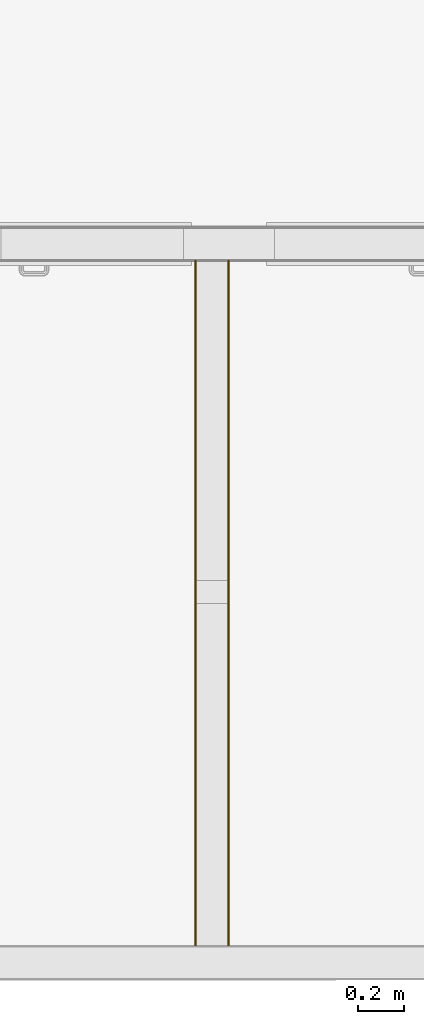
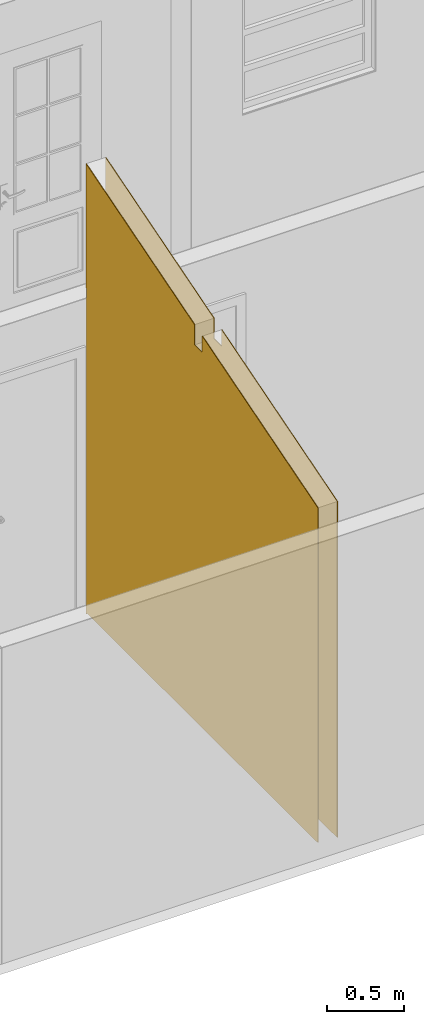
# One storey, part 6 of 8: 2 coverings, 1 element without a shape of its own.
"""IFC2X3 building model written with IfcOpenShell, lengths in millimetres."""

import ifcopenshell
import ifcopenshell.guid

model = None  # the IFC model being written
_history = None  # IfcOwnerHistory: only IFC2X3 demands one
_inside = {}  # id of a spatial element -> (the spatial element, [elements in it])
_under = {}  # id of a project, library or spatial element -> (it, [spatial elements below it])
_declared = {}  # id of a project -> (the project, [libraries it declares])
_typed = {}  # id of a type object -> (the type object, [elements of that type])
_made_of = {}  # id of a material, layer set ... -> (it, [elements and type objects made of it])


def new_model(schema):
    """Start an empty IFC model of exactly this schema.

    Asked for "IFC4X3", IfcOpenShell would pick the latest addendum, in which some entities
    have other attributes; the version numbers below select the first issue.
    IFC2X3 requires an IfcOwnerHistory on every rooted entity: one is made here for all.
    """
    global model, _history
    if schema == "IFC4X3":
        model = ifcopenshell.file(schema_version=(4, 3, 0, 0))
    else:
        model = ifcopenshell.file(schema=schema)
    _inside.clear()
    _under.clear()
    _declared.clear()
    _typed.clear()
    _made_of.clear()
    _history = None
    if model.schema == "IFC2X3":
        org = make("IfcOrganization", Name="unknown")
        user = make(
            "IfcPersonAndOrganization",
            ThePerson=make("IfcPerson", FamilyName="unknown"),
            TheOrganization=org,
        )
        app = make(
            "IfcApplication",
            ApplicationDeveloper=org,
            Version="unknown",
            ApplicationFullName="unknown",
            ApplicationIdentifier="unknown",
        )
        _history = make(
            "IfcOwnerHistory",
            OwningUser=user,
            OwningApplication=app,
            ChangeAction="ADDED",
            CreationDate=0,
        )
    return model


def make(cls, **values):
    """One entity of the class cls with the attributes given. An attribute that is None is left unset."""
    return model.create_entity(
        cls, **{name: value for name, value in values.items() if value is not None}
    )


def entity(cls, *values):
    """Any entity or typed value of the class cls, its attributes in the order of the schema. None: left unset."""
    e = model.create_entity(cls)
    for i, value in enumerate(values):
        if value is not None:
            e[i] = value
    return e


def rooted(cls, **values):
    """An entity with a GlobalId (a new one), such as an element, a storey or a relation."""
    return make(cls, GlobalId=ifcopenshell.guid.new(), OwnerHistory=_history, **values)


def si_unit(unit_type, name, prefix=None):
    """IfcSIUnit, for example si_unit("LENGTHUNIT", "METRE", prefix="MILLI")."""
    return make("IfcSIUnit", UnitType=unit_type, Prefix=prefix, Name=name)


def converted_unit(unit_type, name, factor, base, dimensions=None, offset=None):
    """IfcConversionBasedUnit, such as the inch: factor (a typed value) times the base unit."""
    return make(
        "IfcConversionBasedUnit"
        if offset is None
        else "IfcConversionBasedUnitWithOffset",
        ConversionOffset=offset,
        Dimensions=None
        if dimensions is None
        else entity("IfcDimensionalExponents", *dimensions),
        UnitType=unit_type,
        Name=name,
        ConversionFactor=make(
            "IfcMeasureWithUnit", ValueComponent=factor, UnitComponent=base
        ),
    )


def derived_unit(unit_type, elements):
    """IfcDerivedUnit: a product of units, each with its exponent."""
    return make(
        "IfcDerivedUnit",
        Elements=[
            make("IfcDerivedUnitElement", Unit=unit, Exponent=power)
            for unit, power in elements
        ],
        UnitType=unit_type,
    )


def money_unit(currency):
    """IfcMonetaryUnit."""
    return make("IfcMonetaryUnit", Currency=currency)


def assignment(units):
    """IfcUnitAssignment: the units of a project."""
    return None if units is None else make("IfcUnitAssignment", Units=units)


def point(xyz):
    """IfcCartesianPoint."""
    return None if xyz is None else make("IfcCartesianPoint", Coordinates=xyz)


def direction(xyz):
    """IfcDirection."""
    return None if xyz is None else make("IfcDirection", DirectionRatios=xyz)


def frame(location, z_axis=None, x_axis=None):
    """IfcAxis2Placement3D, a coordinate frame: its origin and axes. An axis left out is left unset."""
    return make(
        "IfcAxis2Placement3D",
        Location=point(location),
        Axis=direction(z_axis),
        RefDirection=direction(x_axis),
    )


def origin_with_axes():
    """The frame at (0, 0, 0) with the z axis (0, 0, 1) and the x axis (1, 0, 0) written out."""
    return frame((0.0, 0.0, 0.0), z_axis=(0.0, 0.0, 1.0), x_axis=(1.0, 0.0, 0.0))


def place(relative_to, where):
    """IfcLocalPlacement: puts the frame where relative to a parent placement (None: the world)."""
    return make(
        "IfcLocalPlacement", PlacementRelTo=relative_to, RelativePlacement=where
    )


def context(
    kind, dimensions, precision=None, world=None, true_north=None, identifier=None
):
    """IfcGeometricRepresentationContext, for example the 3D "Model" context."""
    return make(
        "IfcGeometricRepresentationContext",
        ContextIdentifier=identifier,
        ContextType=kind,
        CoordinateSpaceDimension=dimensions,
        Precision=precision,
        WorldCoordinateSystem=world,
        TrueNorth=true_north,
    )


def subcontext(parent, identifier, kind, view, scale=None):
    """IfcGeometricRepresentationSubContext, for example "Body" below "Model"."""
    return make(
        "IfcGeometricRepresentationSubContext",
        ContextIdentifier=identifier,
        ContextType=kind,
        ParentContext=parent,
        TargetScale=scale,
        TargetView=view,
    )


def project(units=None, contexts=None):
    """IfcProject with its units and contexts."""
    return rooted(
        "IfcProject",
        Name="project",
        RepresentationContexts=contexts,
        UnitsInContext=assignment(units),
    )


def spatial(cls, under=None, at=None, **own):
    """A site, building, storey or space (cls), placed at a placement, below another one or the project."""
    s = rooted(cls, ObjectPlacement=at, **own)
    if under is not None:
        _under.setdefault(under.id(), (under, []))[1].append(s)
    return s


def polyline(points):
    """IfcPolyline through the points."""
    return make("IfcPolyline", Points=[point(p) for p in points])


def outline(outer, holes=None, kind="AREA"):
    """IfcArbitraryClosedProfileDef: a profile drawn as a closed curve; with holes, ...WithVoids."""
    if holes is None:
        return make("IfcArbitraryClosedProfileDef", ProfileType=kind, OuterCurve=outer)
    return make(
        "IfcArbitraryProfileDefWithVoids",
        ProfileType=kind,
        OuterCurve=outer,
        InnerCurves=holes,
    )


def extrude(swept, where, along, depth):
    """IfcExtrudedAreaSolid: the profile swept, set in the frame where, extruded along a direction by depth."""
    return make(
        "IfcExtrudedAreaSolid",
        SweptArea=swept,
        Position=where,
        ExtrudedDirection=direction(along),
        Depth=depth,
    )


def boolean(op, a, b):
    """IfcBooleanResult of two solids."""
    return make("IfcBooleanResult", Operator=op, FirstOperand=a, SecondOperand=b)


def faces_of(points, faces, orient=None, outer=None):
    """IfcFace entities. A face is a list of loops; a loop is a list of indices into points, from 0.

    orient and outer hold one flag for each loop. By default every Orientation is true, the
    first loop of a face is its IfcFaceOuterBound and the others are IfcFaceBound.
    """
    made = []
    for i, loops in enumerate(faces):
        bounds = []
        for j, loop in enumerate(loops):
            is_outer = j == 0 if outer is None else outer[i][j]
            bounds.append(
                make(
                    "IfcFaceOuterBound" if is_outer else "IfcFaceBound",
                    Bound=make("IfcPolyLoop", Polygon=[points[k] for k in loop]),
                    Orientation=True if orient is None else orient[i][j],
                )
            )
        made.append(make("IfcFace", Bounds=bounds))
    return made


def faceted_brep(points, faces, orient=None, outer=None, voids=None):
    """IfcFacetedBrep: a solid bounded by flat faces; with voids (closed shells), ...WithVoids."""
    shared = [point(p) for p in points]
    hull = make("IfcClosedShell", CfsFaces=faces_of(shared, faces, orient, outer))
    if voids is None:
        return make("IfcFacetedBrep", Outer=hull)
    return make(
        "IfcFacetedBrepWithVoids",
        Outer=hull,
        Voids=[
            make(cls, CfsFaces=faces_of(shared, fs, o, b)) for cls, fs, o, b in voids
        ],
    )


def shape(context_of_items, identifier, shape_type, items):
    """IfcShapeRepresentation: the items that make up one representation, for example the "Body"."""
    return make(
        "IfcShapeRepresentation",
        ContextOfItems=context_of_items,
        RepresentationIdentifier=identifier,
        RepresentationType=shape_type,
        Items=items,
    )


def material(Name=None, Category=None):
    """IfcMaterial."""
    return make("IfcMaterial", Name=Name, Category=Category)


def made_of(thing, what):
    """Note that an element or type object is made of a material, layer set ...; save() writes the relation."""
    if what is not None:
        _made_of.setdefault(what.id(), (what, []))[1].append(thing)
    return thing


def type_object(cls, material=None, **own):
    """A type object (cls), such as IfcWallType, which elements share."""
    return made_of(rooted(cls, **own), material)


def element(
    cls,
    number,
    at=None,
    inside=None,
    cuts=None,
    type_object=None,
    material=None,
    context=None,
    identifier="Body",
    shape_type=None,
    held_by="IfcProductDefinitionShape",
    body=None,
    shapes=None,
    **own,
):
    """One element of the class cls, such as IfcWall. Its Tag is "e" and its number.

    at: its placement. inside: the storey or other place that contains it. cuts: it is an
    opening in that element (IfcRelVoidsElement). A single representation is given by context,
    identifier, shape_type and body (its items); several are given by shapes. held_by: the class
    of the entity that holds the representations. save() writes the other relations.
    """
    e = rooted(cls, Tag="e%d" % number, ObjectPlacement=at, **own)
    if body is not None:
        shapes = [shape(context, identifier, shape_type, body)]
    if shapes is not None:
        e.Representation = make(held_by, Representations=shapes)
    if inside is not None:
        _inside.setdefault(inside.id(), (inside, []))[1].append(e)
    if cuts is not None:
        rooted(
            "IfcRelVoidsElement", RelatingBuildingElement=cuts, RelatedOpeningElement=e
        )
    if type_object is not None:
        _typed.setdefault(type_object.id(), (type_object, []))[1].append(e)
    return made_of(e, material)


def aggregate(whole, parts):
    """IfcRelAggregates: a whole, such as a stair, and the parts it consists of."""
    return rooted("IfcRelAggregates", RelatingObject=whole, RelatedObjects=parts)


def save(model, path):
    """Write the relations noted so far, then the file.

    IfcRelAggregates (storeys below a building ...), IfcRelContainedInSpatialStructure (elements
    in a storey), IfcRelDefinesByType, IfcRelAssociatesMaterial and IfcRelDeclares: one each for
    every whole, place, type object, material and project.
    """
    for whole, parts in _under.values():
        aggregate(whole, parts)
    for where, things in _inside.values():
        rooted(
            "IfcRelContainedInSpatialStructure",
            RelatedElements=things,
            RelatingStructure=where,
        )
    for kind, things in _typed.values():
        rooted("IfcRelDefinesByType", RelatedObjects=things, RelatingType=kind)
    for what, things in _made_of.values():
        rooted("IfcRelAssociatesMaterial", RelatedObjects=things, RelatingMaterial=what)
    for by, libraries in _declared.values():
        rooted("IfcRelDeclares", RelatingContext=by, RelatedDefinitions=libraries)
    model.write(path)


model = new_model("IFC2X3")

# Units and contexts
model_context = context("Model", 3, precision=0.01, world=origin_with_axes(), true_north=direction((0.0, 1.0)))
body_context = subcontext(model_context, "Body", "Model", "MODEL_VIEW")
ifc_project = project(units=[si_unit("LENGTHUNIT", "METRE", prefix="MILLI"), si_unit("AREAUNIT", "SQUARE_METRE"), si_unit("VOLUMEUNIT", "CUBIC_METRE"), converted_unit("PLANEANGLEUNIT", "DEGREE", entity("IfcPlaneAngleMeasure", 0.0174532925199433), si_unit("PLANEANGLEUNIT", "RADIAN"), dimensions=[0, 0, 0, 0, 0, 0, 0]), money_unit("USD"), converted_unit("TIMEUNIT", "Year", entity("IfcTimeMeasure", 31557600.0), si_unit("TIMEUNIT", "SECOND"), dimensions=[0, 0, 1, 0, 0, 0, 0]), si_unit("MASSUNIT", "GRAM", prefix="KILO"), si_unit("THERMODYNAMICTEMPERATUREUNIT", "DEGREE_CELSIUS"), si_unit("LUMINOUSINTENSITYUNIT", "LUMEN"), si_unit("ENERGYUNIT", "JOULE", prefix="MEGA"), derived_unit("THERMALCONDUCTANCEUNIT", [(si_unit("POWERUNIT", "WATT"), 1), (si_unit("LENGTHUNIT", "METRE"), -1), (si_unit("THERMODYNAMICTEMPERATUREUNIT", "KELVIN"), -1)]), derived_unit("SPECIFICHEATCAPACITYUNIT", [(si_unit("ENERGYUNIT", "JOULE"), 1), (si_unit("MASSUNIT", "GRAM", prefix="KILO"), -1), (si_unit("THERMODYNAMICTEMPERATUREUNIT", "KELVIN"), -1)]), derived_unit("MASSDENSITYUNIT", [(si_unit("MASSUNIT", "GRAM", prefix="KILO"), 1), (si_unit("VOLUMEUNIT", "CUBIC_METRE"), -1)])], contexts=[model_context])

# Site, building, storey
site_placement = place(None, origin_with_axes())
site = spatial("IfcSite", under=ifc_project, at=site_placement, Name="Local", CompositionType="ELEMENT")
building_placement = place(site_placement, origin_with_axes())
building = spatial("IfcBuilding", under=site, at=building_placement, Name="Construção", CompositionType="ELEMENT")
storey_placement = place(building_placement, origin_with_axes())
storey = spatial("IfcBuildingStorey", under=building, at=storey_placement, Name="Pavimento Térreo", CompositionType="ELEMENT", Elevation=0.0)

# Wall, coverings
wall_type = type_object("IfcWallType", Name="Alvenaria 140, Rebocada 2 Faces 150", PredefinedType="NOTDEFINED")
wall_placement = place(storey_placement, frame((2750.0, 150.0000000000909, 0.0), z_axis=(0.0, 0.0, 1.0), x_axis=(0.0, 1.0, 0.0)))
wall = element("IfcWall", 1, at=wall_placement, inside=storey, type_object=wall_type, Name="Parede-06")
ifc_material = material(Name="Reboco DEF")
covering_1_placement = place(wall_placement, origin_with_axes())
covering_1 = element("IfcCovering", 2, at=covering_1_placement, material=ifc_material, Name="Reboco DEF", PredefinedType="CLADDING", context=body_context, shape_type="CSG", body=[
    boolean("DIFFERENCE", boolean("DIFFERENCE", boolean("DIFFERENCE", boolean("DIFFERENCE", boolean("DIFFERENCE", boolean("DIFFERENCE", boolean("DIFFERENCE", extrude(outline(polyline([(0.0, 0.0), (3005.000000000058, 0.0), (3005.000000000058, 4.999999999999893), (0.0, 4.999999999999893), (0.0, 0.0)])), origin_with_axes(), (0.0, 0.0, 1.0), 5897.788795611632), faceted_brep([(3005.000000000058, 0.0, 2500.0), (3005.000000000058, 4.999999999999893, 2500.0), (3005.000000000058, 4.999999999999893, 2580.0), (3005.000000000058, 0.0, 2580.0), (2999.999999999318, 0.0, 2500.0), (2999.999999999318, 4.999999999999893, 2500.0), (2999.999999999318, 4.999999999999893, 2580.0), (2999.999999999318, 0.0, 2580.0)], [[[0, 1, 2, 3]], [[1, 0, 4, 5]], [[6, 2, 1, 5]], [[7, 3, 2, 6]], [[4, 0, 3, 7]], [[4, 7, 6, 5]]])), faceted_brep([(1600.000000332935, 0.0, 2980.451740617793), (1600.000000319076, 0.0, 3140.451740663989), (3005.000000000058, 0.0, 3561.951740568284), (3005.000000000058, 0.0, 5897.788795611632), (0.0, 0.0, 5897.788795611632), (0.0, 0.0, 2660.451740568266), (1500.000000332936, 0.0, 3110.451740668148), (1500.000000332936, 0.0, 2980.451740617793), (1600.000000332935, 4.999999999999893, 2980.451740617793), (1600.000000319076, 4.999999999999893, 3140.451740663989), (3005.000000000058, 4.999999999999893, 3561.951740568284), (3005.000000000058, 4.999999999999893, 5897.788795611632), (0.0, 4.999999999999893, 5897.788795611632), (0.0, 4.999999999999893, 2660.451740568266), (1500.000000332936, 4.999999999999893, 3110.451740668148), (1500.000000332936, 4.999999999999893, 2980.451740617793)], [[[0, 1, 2, 3, 4, 5, 6, 7]], [[1, 0, 8, 9]], [[10, 2, 1, 9]], [[2, 10, 11, 3]], [[12, 4, 3, 11]], [[13, 5, 4, 12]], [[6, 5, 13, 14]], [[7, 6, 14, 15]], [[0, 7, 15, 8]], [[14, 13, 12, 11, 10, 9, 8, 15]]])), faceted_brep([(3005.000000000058, 4.999999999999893, 2500.0), (3005.000000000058, 145.0000000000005, 2500.0), (3005.000000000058, 145.0000000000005, 2580.0), (3005.000000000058, 4.999999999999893, 2580.0), (2999.999999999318, 4.999999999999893, 2500.0), (2999.999999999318, 145.0000000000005, 2500.0), (2999.999999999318, 145.0000000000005, 2580.0), (2999.999999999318, 4.999999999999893, 2580.0)], [[[0, 1, 2, 3]], [[1, 0, 4, 5]], [[6, 2, 1, 5]], [[3, 2, 6, 7]], [[4, 0, 3, 7]], [[6, 5, 4, 7]]])), faceted_brep([(1600.000000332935, 4.999999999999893, 2980.451740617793), (1600.000000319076, 4.999999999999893, 3140.451740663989), (3005.000000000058, 4.999999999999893, 3561.951740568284), (3005.000000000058, 4.999999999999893, 5897.788795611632), (0.0, 4.999999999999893, 5897.788795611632), (0.0, 4.999999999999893, 2660.451740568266), (1500.000000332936, 4.999999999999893, 3110.451740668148), (1500.000000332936, 4.999999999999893, 2980.451740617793), (1600.000000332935, 145.0000000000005, 2980.451740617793), (1600.000000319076, 145.0000000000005, 3140.451740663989), (3005.000000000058, 145.0000000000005, 3561.951740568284), (3005.000000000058, 145.0, 5897.788795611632), (0.0, 145.0, 5897.788795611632), (0.0, 145.0000000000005, 2660.451740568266), (1500.000000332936, 145.0000000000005, 3110.451740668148), (1500.000000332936, 145.0000000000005, 2980.451740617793)], [[[0, 1, 2, 3, 4, 5, 6, 7]], [[1, 0, 8, 9]], [[10, 2, 1, 9]], [[2, 10, 11, 3]], [[12, 4, 3, 11]], [[13, 5, 4, 12]], [[6, 5, 13, 14]], [[14, 15, 7, 6]], [[15, 8, 0, 7]], [[14, 13, 12, 11, 10, 9, 8, 15]]])), faceted_brep([(3000.000011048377, 145.0000000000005, 9.999999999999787), (0.0, 145.0, 9.999999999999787), (0.0, 145.0, 0.0), (3000.000011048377, 145.0, 0.0), (3000.000011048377, 149.9999999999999, 9.999999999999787), (0.0, 149.9999999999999, 9.999999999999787), (0.0, 149.9999999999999, 0.0), (3000.000011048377, 149.9999999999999, 0.0)], [[[0, 1, 2, 3]], [[1, 0, 4, 5]], [[1, 5, 6, 2]], [[7, 3, 2, 6]], [[0, 3, 7, 4]], [[4, 7, 6, 5]]])), faceted_brep([(3005.000000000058, 145.0000000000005, 2500.0), (3005.000000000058, 150.0000000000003, 2500.0), (3005.000000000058, 150.0000000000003, 2580.0), (3005.000000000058, 145.0000000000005, 2580.0), (2999.999999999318, 145.0000000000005, 2500.0), (2999.999999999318, 150.0000000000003, 2500.0), (2999.999999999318, 150.0000000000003, 2580.0), (2999.999999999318, 145.0000000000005, 2580.0)], [[[0, 1, 2, 3]], [[1, 0, 4, 5]], [[6, 2, 1, 5]], [[3, 2, 6, 7]], [[4, 0, 3, 7]], [[6, 5, 4, 7]]])), faceted_brep([(1600.000000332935, 145.0000000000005, 2980.451740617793), (1600.000000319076, 145.0000000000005, 3140.451740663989), (3005.000000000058, 145.0000000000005, 3561.951740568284), (3005.000000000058, 145.0, 5897.788795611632), (0.0, 145.0, 5897.788795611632), (0.0, 145.0000000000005, 2660.451740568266), (1500.000000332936, 145.0000000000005, 3110.451740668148), (1500.000000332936, 145.0000000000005, 2980.451740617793), (1600.000000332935, 150.0000000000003, 2980.451740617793), (1600.000000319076, 150.0000000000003, 3140.451740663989), (3005.000000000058, 150.0000000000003, 3561.951740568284), (3005.000000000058, 149.9999999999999, 5897.788795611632), (0.0, 149.9999999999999, 5897.788795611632), (0.0, 150.0000000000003, 2660.451740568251), (1500.000000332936, 150.0000000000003, 3110.451740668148), (1500.000000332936, 150.0000000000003, 2980.451740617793)], [[[0, 1, 2, 3, 4, 5, 6, 7]], [[8, 9, 1, 0]], [[10, 2, 1, 9]], [[2, 10, 11, 3]], [[12, 4, 3, 11]], [[13, 5, 4, 12]], [[6, 5, 13, 14]], [[14, 15, 7, 6]], [[15, 8, 0, 7]], [[14, 13, 12, 11, 10, 9, 8, 15]]])),
])
covering_2_placement = place(wall_placement, origin_with_axes())
covering_2 = element("IfcCovering", 3, at=covering_2_placement, material=ifc_material, Name="Reboco DEF", PredefinedType="CLADDING", context=body_context, shape_type="CSG", body=[
    boolean("DIFFERENCE", boolean("DIFFERENCE", boolean("DIFFERENCE", boolean("DIFFERENCE", boolean("DIFFERENCE", boolean("DIFFERENCE", boolean("DIFFERENCE", extrude(outline(polyline([(0.0, 145.0), (3005.000000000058, 145.0), (3005.000000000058, 149.9999999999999), (0.0, 149.9999999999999), (0.0, 145.0)])), origin_with_axes(), (0.0, 0.0, 1.0), 5897.788795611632), faceted_brep([(3005.000000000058, 0.0, 2500.0), (3005.000000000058, 4.999999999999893, 2500.0), (3005.000000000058, 4.999999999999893, 2580.0), (3005.000000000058, 0.0, 2580.0), (2999.999999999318, 0.0, 2500.0), (2999.999999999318, 4.999999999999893, 2500.0), (2999.999999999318, 4.999999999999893, 2580.0), (2999.999999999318, 0.0, 2580.0)], [[[0, 1, 2, 3]], [[1, 0, 4, 5]], [[6, 2, 1, 5]], [[7, 3, 2, 6]], [[4, 0, 3, 7]], [[4, 7, 6, 5]]])), faceted_brep([(1600.000000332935, 0.0, 2980.451740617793), (1600.000000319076, 0.0, 3140.451740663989), (3005.000000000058, 0.0, 3561.951740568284), (3005.000000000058, 0.0, 5897.788795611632), (0.0, 0.0, 5897.788795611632), (0.0, 0.0, 2660.451740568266), (1500.000000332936, 0.0, 3110.451740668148), (1500.000000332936, 0.0, 2980.451740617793), (1600.000000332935, 4.999999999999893, 2980.451740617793), (1600.000000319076, 4.999999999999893, 3140.451740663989), (3005.000000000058, 4.999999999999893, 3561.951740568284), (3005.000000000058, 4.999999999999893, 5897.788795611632), (0.0, 4.999999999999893, 5897.788795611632), (0.0, 4.999999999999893, 2660.451740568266), (1500.000000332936, 4.999999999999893, 3110.451740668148), (1500.000000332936, 4.999999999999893, 2980.451740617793)], [[[0, 1, 2, 3, 4, 5, 6, 7]], [[1, 0, 8, 9]], [[10, 2, 1, 9]], [[2, 10, 11, 3]], [[12, 4, 3, 11]], [[13, 5, 4, 12]], [[6, 5, 13, 14]], [[7, 6, 14, 15]], [[0, 7, 15, 8]], [[14, 13, 12, 11, 10, 9, 8, 15]]])), faceted_brep([(3005.000000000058, 4.999999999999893, 2500.0), (3005.000000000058, 145.0000000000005, 2500.0), (3005.000000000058, 145.0000000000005, 2580.0), (3005.000000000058, 4.999999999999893, 2580.0), (2999.999999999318, 4.999999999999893, 2500.0), (2999.999999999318, 145.0000000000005, 2500.0), (2999.999999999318, 145.0000000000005, 2580.0), (2999.999999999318, 4.999999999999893, 2580.0)], [[[0, 1, 2, 3]], [[1, 0, 4, 5]], [[6, 2, 1, 5]], [[3, 2, 6, 7]], [[4, 0, 3, 7]], [[6, 5, 4, 7]]])), faceted_brep([(1600.000000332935, 4.999999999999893, 2980.451740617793), (1600.000000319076, 4.999999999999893, 3140.451740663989), (3005.000000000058, 4.999999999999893, 3561.951740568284), (3005.000000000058, 4.999999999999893, 5897.788795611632), (0.0, 4.999999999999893, 5897.788795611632), (0.0, 4.999999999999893, 2660.451740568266), (1500.000000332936, 4.999999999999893, 3110.451740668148), (1500.000000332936, 4.999999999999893, 2980.451740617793), (1600.000000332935, 145.0000000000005, 2980.451740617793), (1600.000000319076, 145.0000000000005, 3140.451740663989), (3005.000000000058, 145.0000000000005, 3561.951740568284), (3005.000000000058, 145.0, 5897.788795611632), (0.0, 145.0, 5897.788795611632), (0.0, 145.0000000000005, 2660.451740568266), (1500.000000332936, 145.0000000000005, 3110.451740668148), (1500.000000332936, 145.0000000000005, 2980.451740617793)], [[[0, 1, 2, 3, 4, 5, 6, 7]], [[1, 0, 8, 9]], [[10, 2, 1, 9]], [[2, 10, 11, 3]], [[12, 4, 3, 11]], [[13, 5, 4, 12]], [[6, 5, 13, 14]], [[14, 15, 7, 6]], [[15, 8, 0, 7]], [[14, 13, 12, 11, 10, 9, 8, 15]]])), faceted_brep([(3000.000011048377, 145.0000000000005, 9.999999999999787), (0.0, 145.0, 9.999999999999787), (0.0, 145.0, 0.0), (3000.000011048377, 145.0, 0.0), (3000.000011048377, 149.9999999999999, 9.999999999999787), (0.0, 149.9999999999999, 9.999999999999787), (0.0, 149.9999999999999, 0.0), (3000.000011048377, 149.9999999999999, 0.0)], [[[0, 1, 2, 3]], [[1, 0, 4, 5]], [[1, 5, 6, 2]], [[7, 3, 2, 6]], [[0, 3, 7, 4]], [[4, 7, 6, 5]]])), faceted_brep([(3005.000000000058, 145.0000000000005, 2500.0), (3005.000000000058, 150.0000000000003, 2500.0), (3005.000000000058, 150.0000000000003, 2580.0), (3005.000000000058, 145.0000000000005, 2580.0), (2999.999999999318, 145.0000000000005, 2500.0), (2999.999999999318, 150.0000000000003, 2500.0), (2999.999999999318, 150.0000000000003, 2580.0), (2999.999999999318, 145.0000000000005, 2580.0)], [[[0, 1, 2, 3]], [[1, 0, 4, 5]], [[6, 2, 1, 5]], [[3, 2, 6, 7]], [[4, 0, 3, 7]], [[6, 5, 4, 7]]])), faceted_brep([(1600.000000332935, 145.0000000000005, 2980.451740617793), (1600.000000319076, 145.0000000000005, 3140.451740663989), (3005.000000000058, 145.0000000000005, 3561.951740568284), (3005.000000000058, 145.0, 5897.788795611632), (0.0, 145.0, 5897.788795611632), (0.0, 145.0000000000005, 2660.451740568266), (1500.000000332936, 145.0000000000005, 3110.451740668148), (1500.000000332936, 145.0000000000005, 2980.451740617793), (1600.000000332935, 150.0000000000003, 2980.451740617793), (1600.000000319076, 150.0000000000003, 3140.451740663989), (3005.000000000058, 150.0000000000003, 3561.951740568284), (3005.000000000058, 149.9999999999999, 5897.788795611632), (0.0, 149.9999999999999, 5897.788795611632), (0.0, 150.0000000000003, 2660.451740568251), (1500.000000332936, 150.0000000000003, 3110.451740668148), (1500.000000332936, 150.0000000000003, 2980.451740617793)], [[[0, 1, 2, 3, 4, 5, 6, 7]], [[8, 9, 1, 0]], [[10, 2, 1, 9]], [[2, 10, 11, 3]], [[12, 4, 3, 11]], [[13, 5, 4, 12]], [[6, 5, 13, 14]], [[14, 15, 7, 6]], [[15, 8, 0, 7]], [[14, 13, 12, 11, 10, 9, 8, 15]]])),
])
aggregate(wall, [covering_1, covering_2])

save(model, "model.ifc")
